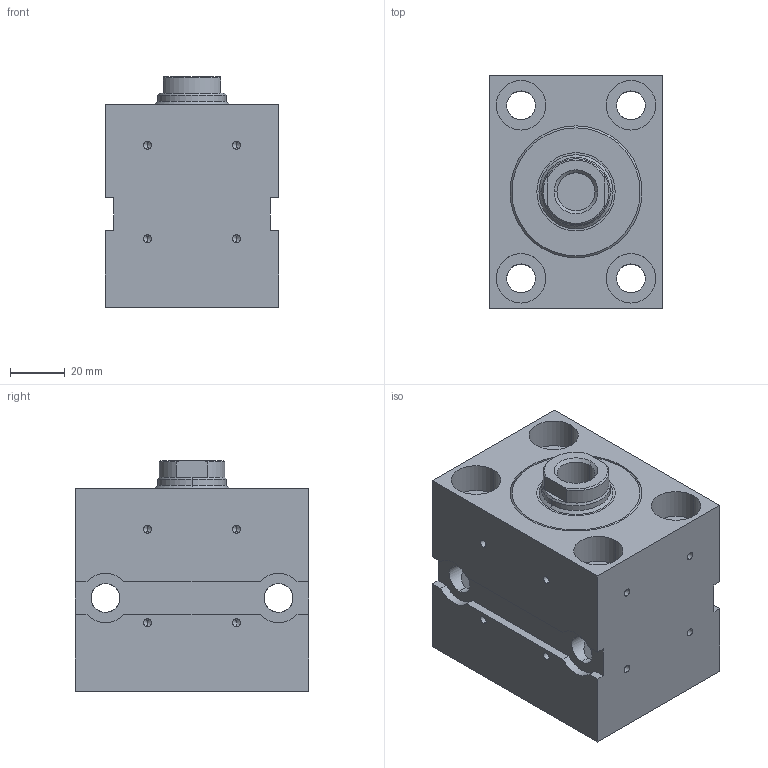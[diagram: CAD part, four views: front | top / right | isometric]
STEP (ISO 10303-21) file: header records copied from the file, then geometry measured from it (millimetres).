
FILE_DESCRIPTION (( 'STEP AP203' ), '1' );
FILE_NAME ('BZ_500.40_25.78.201.020 PP.KBC40__DH_0_.STEP', '2022-05-27T09:10:38', ( '' ), ( '' ), 'SwSTEP 2.0', 'SolidWorks 2020', '' );
FILE_SCHEMA (( 'CONFIG_CONTROL_DESIGN' ));
Length unit declared in the file: millimetre
Products named in the file (6): BZ_500.40_25.78.201.020 PP.KBC40__DH_0_(2)^BZ_500.40_25.78.201.020 PP.KBC40__DH_0_; _Verschraubung komplett mit Dichtung f. BZ_RZ_FZ.40_25.201, Art.-Nr._ 041752(201)^BZ_500.40_25.78.201.020 PP.KBC40__DH_0_(2)_BZ_500.40_25.78.201.020 PP.KBC40__DH_0_; _Kolbenstange komplett f. BZ_RZ_FZ.40_25.xx.201.20(0_11 1 16 2 0 0 10 25 0 0 0)0^BZ_500.40_25.78.201.020 PP.KBC40__DH_0_(2)_BZ_500.40_25.78.201.020 PP.KBC40__DH_0_; BZ_500.40_25.78.201.020 PP.KBC40__DH_0_; _Dichtungssatz f. BZ_RZ_FZ.40_25.xx.201.20 Artikelnr._ 013543(0)^BZ_500.40_25.78.201.020 PP.KBC40__DH_0_(2)_BZ_500.40_25.78.201.020 PP.KBC40__DH_0_; _Gehaeuse f. BZ500.40_25.Fehler in IDBF.201.20Fehler in IDNT00(1340frei278000))7^BZ_500.40_25.78.201.020 PP.KBC40__DH_0_(2)_BZ_500.40_25.78.201.020 PP.KBC40__DH_0_
Assembly tree (5 placements, depth 3):
  BZ_500.40_25.78.201.020 PP.KBC40__DH_0_
    BZ_500.40_25.78.201.020 PP.KBC40__DH_0_(2)^BZ_500.40_25.78.201.020 PP.KBC40__DH_0_
      _Gehaeuse f. BZ500.40_25.Fehler in IDBF.201.20Fehler in IDNT00(1340frei278000))7^BZ_500.40_25.78.201.020 PP.KBC40__DH_0_(2)_BZ_500.40_25.78.201.020 PP.KBC40__DH_0_
      _Verschraubung komplett mit Dichtung f. BZ_RZ_FZ.40_25.201, Art.-Nr._ 041752(201)^BZ_500.40_25.78.201.020 PP.KBC40__DH_0_(2)_BZ_500.40_25.78.201.020 PP.KBC40__DH_0_
      _Dichtungssatz f. BZ_RZ_FZ.40_25.xx.201.20 Artikelnr._ 013543(0)^BZ_500.40_25.78.201.020 PP.KBC40__DH_0_(2)_BZ_500.40_25.78.201.020 PP.KBC40__DH_0_
      _Kolbenstange komplett f. BZ_RZ_FZ.40_25.xx.201.20(0_11 1 16 2 0 0 10 25 0 0 0)0^BZ_500.40_25.78.201.020 PP.KBC40__DH_0_(2)_BZ_500.40_25.78.201.020 PP.KBC40__DH_0_
Bounding box: 63 x 85 x 84 mm (x, y, z)
Volume: 322226.4 mm3; surface area: 77924.8 mm2
Topology: 4 solids, 4 shells, 207 faces, 512 edges, 308 vertices
Faces by surface type: cylinder 117, plane 52, cone 38
Entity records: 6836 total; most frequent: CARTESIAN_POINT 1307, DIRECTION 1097, ORIENTED_EDGE 976, EDGE_CURVE 488, AXIS2_PLACEMENT_3D 435, VERTEX_POINT 308, EDGE_LOOP 254, LINE 227
